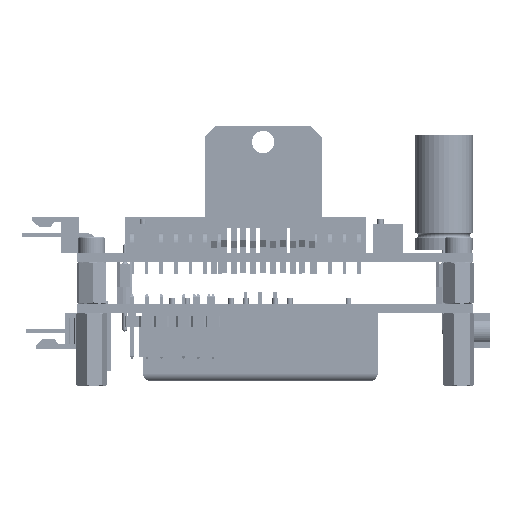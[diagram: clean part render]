
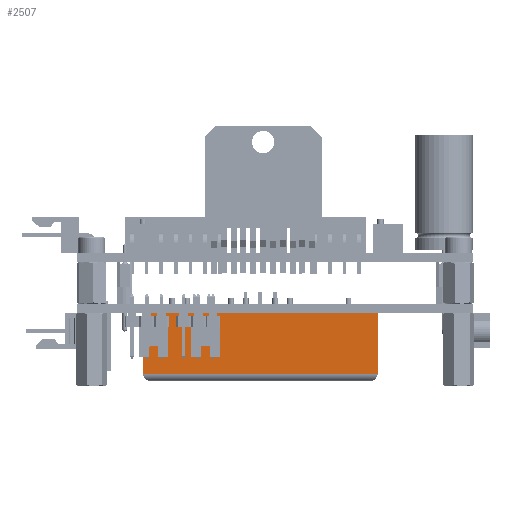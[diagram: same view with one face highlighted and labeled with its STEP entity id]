
A CAD part, front view. The second image highlights one B-rep face of the part: STEP entity #2507.
In plain terms, the highlighted planar face has unit normal (0, -1, 0) as drawn and (1, 0, 0) by its records, which use the part's own axes.
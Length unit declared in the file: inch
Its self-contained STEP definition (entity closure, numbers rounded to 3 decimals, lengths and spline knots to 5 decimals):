
#1049 = CARTESIAN_POINT ( 'NONE',  ( 2., 1.598, 0.465 ) ) ;
#2507 = ADVANCED_FACE ( 'NONE', ( #10895 ), #51805, .F. ) ;
#2737 = LINE ( 'NONE', #43386, #57746 ) ;
#4002 = LINE ( 'NONE', #59573, #60094 ) ;
#8783 = CARTESIAN_POINT ( 'NONE',  ( 2., 0., 0.465 ) ) ;
#10895 = FACE_OUTER_BOUND ( 'NONE', #41128, .T. ) ;
#11281 = CARTESIAN_POINT ( 'NONE',  ( 2., 1.598, 0.05 ) ) ;
#11588 = ORIENTED_EDGE ( 'NONE', *, *, #48665, .F. ) ;
#21780 = ORIENTED_EDGE ( 'NONE', *, *, #57546, .F. ) ;
#25041 = EDGE_CURVE ( 'NONE', #82490, #27735, #4002, .T. ) ;
#26796 = VECTOR ( 'NONE', #54566, 39.37008 ) ;
#27735 = VERTEX_POINT ( 'NONE', #34767 ) ;
#30430 = DIRECTION ( 'NONE',  ( 0., 0., 1. ) ) ;
#31452 = CARTESIAN_POINT ( 'NONE',  ( 2., 0., 0.465 ) ) ;
#34767 = CARTESIAN_POINT ( 'NONE',  ( 2., 0., 0.05 ) ) ;
#36158 = VERTEX_POINT ( 'NONE', #1049 ) ;
#37659 = EDGE_CURVE ( 'NONE', #27735, #49561, #58219, .T. ) ;
#37698 = AXIS2_PLACEMENT_3D ( 'NONE', #8783, #73370, #30430 ) ;
#41128 = EDGE_LOOP ( 'NONE', ( #72194, #67689, #11588, #21780 ) ) ;
#43386 = CARTESIAN_POINT ( 'NONE',  ( 2., 1.598, 0.465 ) ) ;
#48665 = EDGE_CURVE ( 'NONE', #36158, #49561, #2737, .T. ) ;
#49561 = VERTEX_POINT ( 'NONE', #11281 ) ;
#50602 = DIRECTION ( 'NONE',  ( 0., 0., -1. ) ) ;
#51805 = PLANE ( 'NONE',  #37698 ) ;
#52394 = DIRECTION ( 'NONE',  ( 0., 0., -1. ) ) ;
#54566 = DIRECTION ( 'NONE',  ( 0., 1., 0. ) ) ;
#57546 = EDGE_CURVE ( 'NONE', #82490, #36158, #65775, .T. ) ;
#57746 = VECTOR ( 'NONE', #50602, 39.37008 ) ;
#58219 = LINE ( 'NONE', #83963, #26796 ) ;
#59573 = CARTESIAN_POINT ( 'NONE',  ( 2., 0., 0.465 ) ) ;
#59735 = DIRECTION ( 'NONE',  ( 0., 1., 0. ) ) ;
#60094 = VECTOR ( 'NONE', #52394, 39.37008 ) ;
#65775 = LINE ( 'NONE', #31452, #89233 ) ;
#67689 = ORIENTED_EDGE ( 'NONE', *, *, #37659, .T. ) ;
#72194 = ORIENTED_EDGE ( 'NONE', *, *, #25041, .T. ) ;
#73370 = DIRECTION ( 'NONE',  ( -1., 0., 0. ) ) ;
#82490 = VERTEX_POINT ( 'NONE', #92276 ) ;
#83963 = CARTESIAN_POINT ( 'NONE',  ( 2., 1.598, 0.05 ) ) ;
#89233 = VECTOR ( 'NONE', #59735, 39.37008 ) ;
#92276 = CARTESIAN_POINT ( 'NONE',  ( 2., 0., 0.465 ) ) ;
